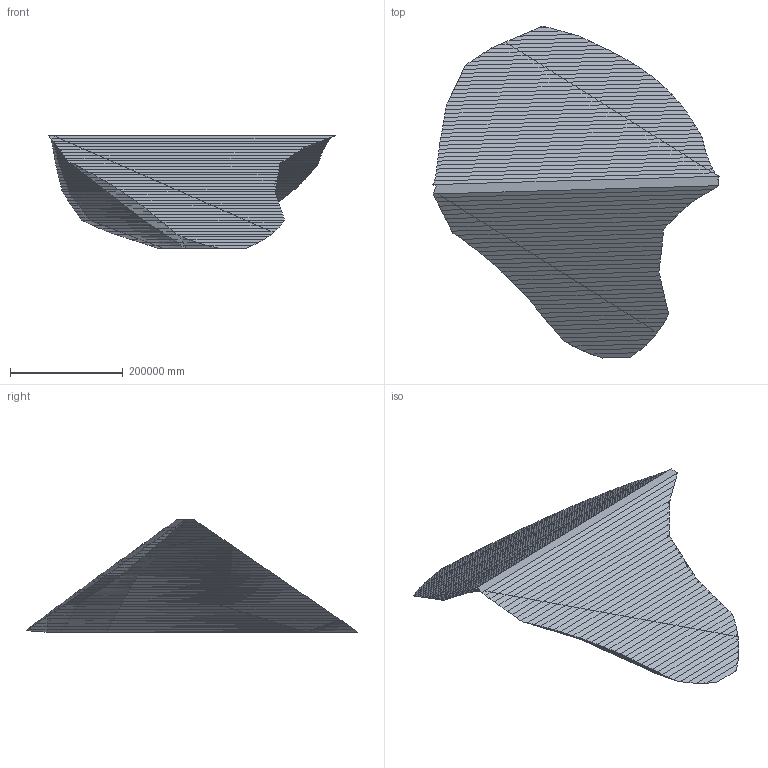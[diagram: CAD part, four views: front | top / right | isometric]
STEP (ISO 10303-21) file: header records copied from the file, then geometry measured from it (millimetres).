
FILE_DESCRIPTION(/* description */ (''),/* implementation_level */ '2;1');
FILE_NAME(/* name */ 'VolumeDecoup5m_0-0',/* time_stamp */ '2024-07-04T15:31:05+02:00',/* author */ (''),/* organization */ (''),/* preprocessor_version */ 'ST-DEVELOPER v16.5',/* originating_system */ 'Rhino 7.36',/* authorisation */ '');
FILE_SCHEMA (('CONFIG_CONTROL_DESIGN'));
Length unit declared in the file: metre
Products named in the file (1): Document
Bounding box: 508311.04 x 589104.8 x 199500 mm (x, y, z)
Volume: 11108905106367912 mm3; surface area: 4903146685398.9 mm2
Topology: 40 solids, 40 shells, 612 faces, 1568 edges, 1037 vertices
Faces by surface type: bspline 312, plane 300
Entity records: 17824 total; most frequent: CARTESIAN_POINT 7292, ORIENTED_EDGE 3136, EDGE_CURVE 1568, B_SPLINE_CURVE_WITH_KNOTS 1568, VERTEX_POINT 1036, ADVANCED_FACE 612, FACE_OUTER_BOUND 612, EDGE_LOOP 612
